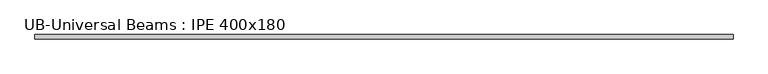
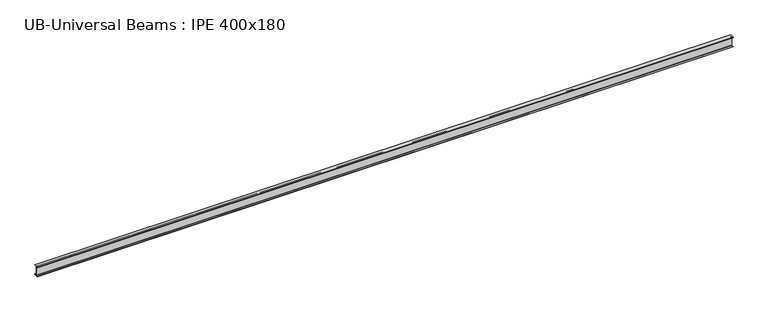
"""IFC4 building model written with IfcOpenShell, lengths in millimetres: beam geometry, UB-Universal Beams : IPE 400x180."""

from ifc_helpers import new_model, si_unit, point, frame, frame_2d, origin, place, context, project, spatial, polyline, circle_curve, trimmed, segment, composite_curve, outline, extrude, source, transform, mapped, element, save


def ub_universal_beams_ipe_400x180_7d0474ca(model_context):
    return source(origin(), model_context, "Body", "SweptSolid", [
        extrude(outline(composite_curve([segment(polyline([(-90.0, -189.8), (-11.9, -189.8)]), True, "CONTINUOUS"), segment(trimmed(circle_curve(frame_2d((-11.9, -180.9)), 8.9), [point((-11.9, -189.8))], [point((-3.0, -180.9))], True, "CARTESIAN"), True, "CONTINUOUS"), segment(polyline([(-3.0, -180.9), (-3.0, 180.9)]), True, "CONTINUOUS"), segment(trimmed(circle_curve(frame_2d((-11.9, 180.9)), 8.9), [point((-3.0, 180.9))], [point((-11.9, 189.8))], True, "CARTESIAN"), True, "CONTINUOUS"), segment(polyline([(-11.9, 189.8), (-90.0, 189.8), (-90.0, 200.0), (90.0, 200.0), (90.0, 189.8), (11.9, 189.8)]), True, "CONTINUOUS"), segment(trimmed(circle_curve(frame_2d((11.9, 180.9)), 8.9), [point((11.9, 189.8))], [point((3.0, 180.9))], True, "CARTESIAN"), True, "CONTINUOUS"), segment(polyline([(3.0, 180.9), (3.0, -180.9)]), True, "CONTINUOUS"), segment(trimmed(circle_curve(frame_2d((11.9, -180.9)), 8.9), [point((3.0, -180.9))], [point((11.9, -189.8))], True, "CARTESIAN"), True, "CONTINUOUS"), segment(polyline([(11.9, -189.8), (90.0, -189.8), (90.0, -200.0), (-90.0, -200.0), (-90.0, -189.8)]), True, "CONTINUOUS")], self_intersect=False)), frame((-13997.25, 0.0, 0.0), z_axis=(1.0, 0.0, 0.0), x_axis=(0.0, 1.0, 0.0)), (0.0, 0.0, 1.0), 27984.6),
    ])


if __name__ == "__main__":
    model = new_model("IFC4")
    model_context = context("Model", 3, world=origin())
    ifc_project = project(units=[si_unit("LENGTHUNIT", "METRE", prefix="MILLI")], contexts=[model_context])
    site = spatial("IfcSite", under=ifc_project)
    building = spatial("IfcBuilding", under=site)
    placement = place(None, origin())
    ub_universal_beams_ipe_400x180_shape = ub_universal_beams_ipe_400x180_7d0474ca(model_context)
    element("IfcBeam", 1, ObjectType="UB-Universal Beams : IPE 400x180", at=placement, inside=building, context=model_context, shape_type="MappedRepresentation", body=[
        mapped(ub_universal_beams_ipe_400x180_shape, transform((0.0, 0.0, 0.0), x_axis=(1.0, 0.0, 0.0), y_axis=(0.0, 1.0, 0.0), z_axis=(0.0, 0.0, 1.0))),
    ])
    save(model, "model.ifc")
